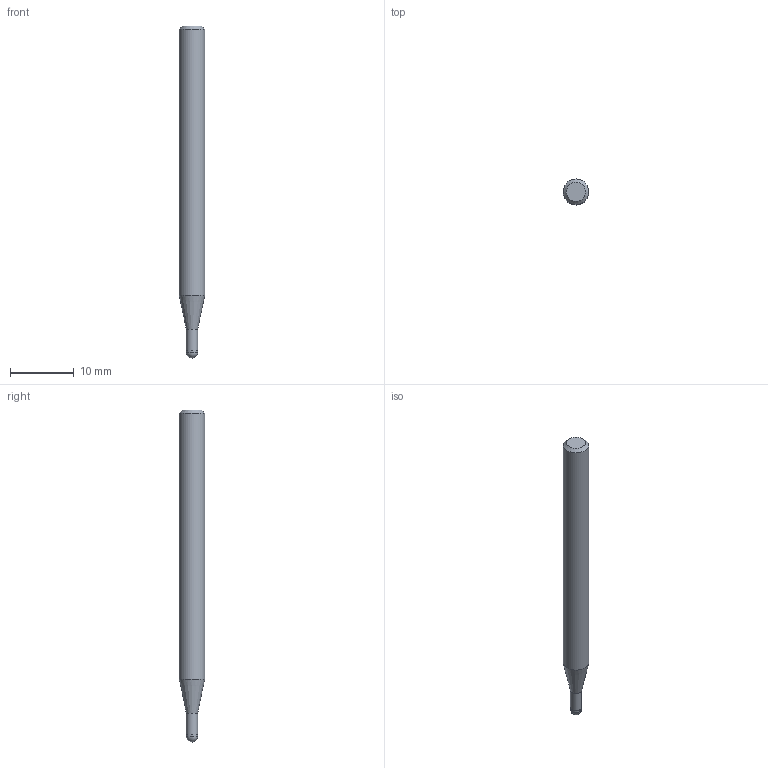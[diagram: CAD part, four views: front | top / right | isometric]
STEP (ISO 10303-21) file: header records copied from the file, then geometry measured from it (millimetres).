
FILE_DESCRIPTION((''),'2;1');
FILE_NAME('C:\Users\nsx150\AppData\Local\Temp\Mastercam 2021\LJSIDMOTM8\TEMP.step','2021-08-03T14:17:51',(''),(''),'STEP Write','Mastercam 2021 ... CNC Software, Inc.','');
FILE_SCHEMA(('AUTOMOTIVE_DESIGN'));
Length unit declared in the file: millimetre
Products named in the file (1): None
Bounding box: 4 x 4 x 52 mm (x, y, z)
Volume: 575.3 mm3; surface area: 617.7 mm2
Topology: 2 solids, 2 shells, 9 faces, 14 edges, 8 vertices
Faces by surface type: plane 3, cylinder 3, cone 2, sphere 1
Full cylindrical faces by diameter (mm): 1.75 x1, 1.8 x1, 4 x1
Entity records: 211 total; most frequent: DIRECTION 36, CARTESIAN_POINT 25, AXIS2_PLACEMENT_3D 18, ORIENTED_EDGE 14, EDGE_LOOP 14, STYLED_ITEM 12, ADVANCED_FACE 9, FACE_BOUND 8
